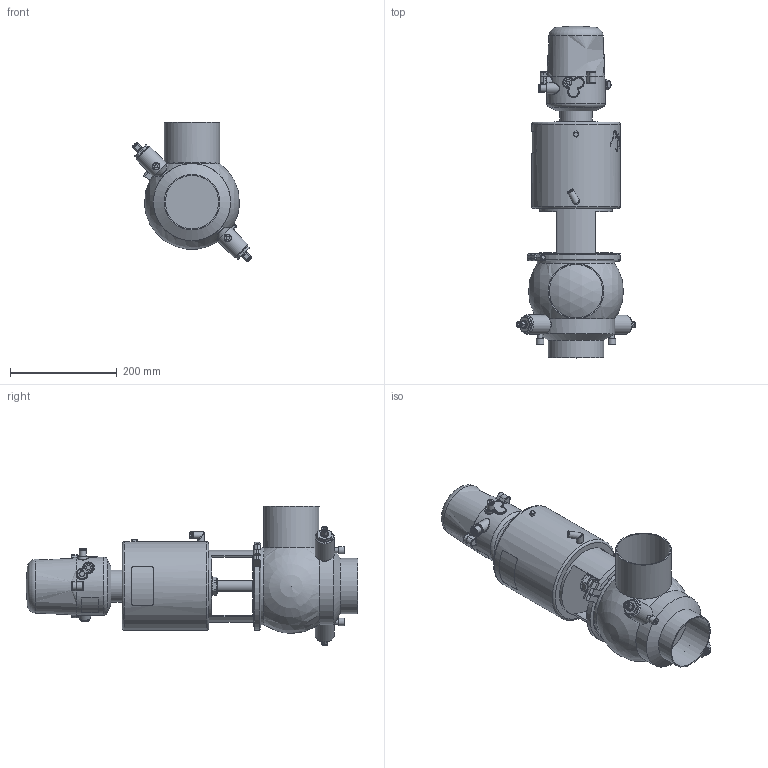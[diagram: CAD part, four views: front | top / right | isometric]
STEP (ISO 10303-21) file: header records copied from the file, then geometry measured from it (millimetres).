
FILE_DESCRIPTION (( 'STEP AP214' ), '1' );
FILE_NAME ('INNOVA D L W DIN 100 T4 AS NC & C-TOP S_10.246.16.0003.STEP', '2024-08-08T09:42:37', ( '' ), ( '' ), 'SwSTEP 2.0', 'SolidWorks 2023', '' );
FILE_SCHEMA (( 'AUTOMOTIVE_DESIGN' ));
Length unit declared in the file: millimetre
Products named in the file (7): 10.240.15.0014_T4 AS P0; INNOVA D L W DIN 100 T4 AS NC & C-TOP S_10.246.16.0003; 10.426.15.0001_C-TOP S - 1 EV; 10.240.15.0017_Estàndard; 10.240.15.0001_DN 100; 10.240.15.0010_DN 100; 10.246.15.0001_DIN 100
Assembly tree (6 placements, depth 2):
  INNOVA D L W DIN 100 T4 AS NC & C-TOP S_10.246.16.0003
    10.246.15.0001_DIN 100
    10.240.15.0010_DN 100
    10.240.15.0014_T4 AS P0
    10.240.15.0017_Estàndard
    10.426.15.0001_C-TOP S - 1 EV
    10.240.15.0001_DN 100
Bounding box: 224.29 x 622 x 262.15 mm (x, y, z)
Volume: 8380723.7 mm3; surface area: 557996.9 mm2
Topology: 6 solids, 6 shells, 1195 faces, 2846 edges, 1887 vertices
Faces by surface type: plane 441, cylinder 350, cone 202, bspline 160, torus 36, sphere 6
Full cylindrical faces by diameter (mm): 0.371 x17, 0.512 x16, 0.658 x16, 0.795 x16, 0.94 x15, 1.098 x15, 1.241 x13, 1.382 x13, 1.523 x11, 1.669 x10, 2.201 x1, 4 x2, 5.5 x2, 6 x6, 6.15 x1, 8 x4, 8.5 x1, 9 x2, 10 x3, 10.5 x1, 11 x2, 12 x4, 12.5 x3, 13 x2, 13.5 x2, 14 x4, 15 x2, 16 x1, 17 x3, 20 x3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
Entity records: 60356 total; most frequent: CARTESIAN_POINT 28489, ORIENTED_EDGE 4818, DIRECTION 3999, EDGE_CURVE 2409, VERTEX_POINT 1710, EDGE_LOOP 1689, AXIS2_PLACEMENT_3D 1617, FACE_OUTER_BOUND 1425
